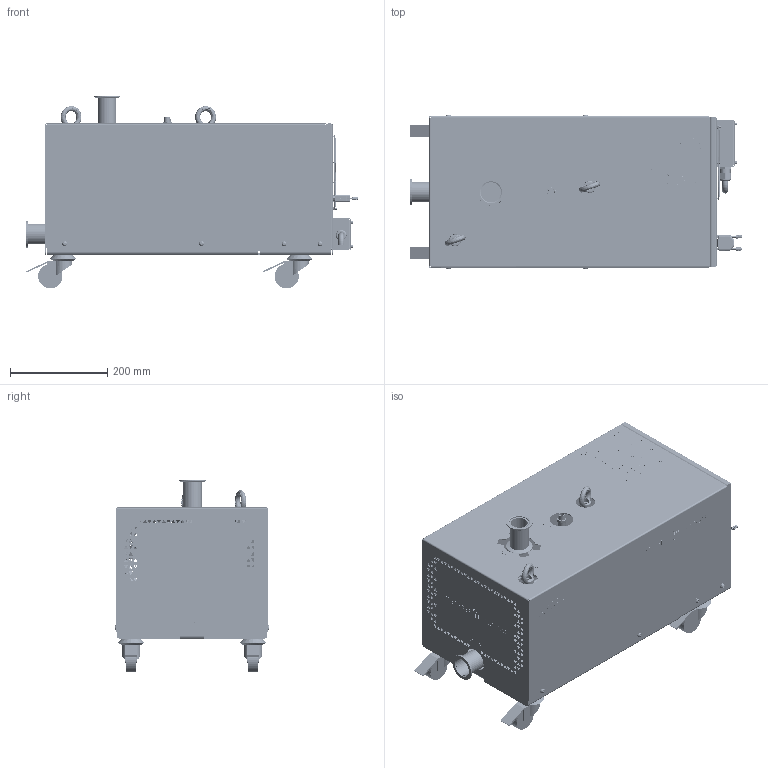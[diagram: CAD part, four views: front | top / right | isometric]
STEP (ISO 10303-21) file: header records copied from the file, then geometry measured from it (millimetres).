
FILE_DESCRIPTION((''),'2;1');
FILE_NAME('CREO10000213206_ASM','2022-10-10T08:11:23',('MSACCHET'),(''),'CREO PARAMETRIC BY PTC INC, 2020281','CREO PARAMETRIC BY PTC INC, 2020281','');
FILE_SCHEMA(('CONFIG_CONTROL_DESIGN'));
Products named in the file (80): FACE-AVANT-COMPLETE-DESIGN-ULY_ASM; ROULETTE-P-FREIN-13327-PAILLET; RONDELLE_M10INOX_NS; CHC-M10X20; ECROU-H-M10; ROUE-ULYSSE-ACCESSOIRE_ASM; EQUIP-ULYSSE-SELECTION-DESIGN_ASM; EMBASE-ULYSSE-DESIGN; RIVKLE-HEX-EP3_M6; GOUJON-SERTI-M4X12; EMBASE-DESIGN-ULYSSE_ASM; ETIQUETTE-TERRE-RONDE-D9; EMBASE-DESIGN-ACP90-LIGHT_ASM; FACE-AVANT-EQUIP-DESIGN-ULYSSE; CREO10000224591; CREO10000243603; CREO10000215028_ASM; COLONNETTE-SERT-BOR-M3X8; GOUJON-SERTI-M4X10; FACE-AVANT-SELECTION-DESIGN_ASM; CREO10000243608; PRESSE-ETOUPE-980-03-LEGRAND; CHC-M3X6INOX; FUJI-FRN0008E2S-7GA; RONDELLE_ONDUFLEX-04INOX; CHC-M4X25INOX; ECROU_TWOLOCK-NOMEL-M4; FUJI_ASM; ENTRETOISE_SD6_4-40_4-40; SAN_ACE_DC_172E51_RL_RU; PINCE-FIXATION-REF-PAPST-LZ210; TFH-ST3_5X22; GRILLE-PAPST-LZ24B; CREO10000225703; ETIQUETTE-CONSTRUCTEUR-CE-ACP; CREO10000208067; CREO10000208091; CREO10000225706; CREO10000226216; CREO10000232705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
Assembly tree (150 placements, depth 6):
  CREO10000213206_ASM
    EQUIP-ULYSSE-SELECTION-DESIGN_ASM
      FACE-AVANT-COMPLETE-DESIGN-ULY_ASM
      ROUE-ULYSSE-ACCESSOIRE_ASM  x4
        ROULETTE-P-FREIN-13327-PAILLET
        RONDELLE_M10INOX_NS
        CHC-M10X20
        ECROU-H-M10
    EQUIP-AMOR-FRN0008E2S_7GA-LIGHT_ASM
      EMBASE-DESIGN-ACP90-LIGHT_ASM
        EMBASE-DESIGN-ULYSSE_ASM
          EMBASE-ULYSSE-DESIGN
          RIVKLE-HEX-EP3_M6  x8
          GOUJON-SERTI-M4X12  x2
        ETIQUETTE-TERRE-RONDE-D9  x2
      FACE-AVANT-FRN0008E2S_7GA-LIGHT_ASM
        FACE-AVANT-SELECTION-DESIGN_ASM
          CREO10000215028_ASM
            FACE-AVANT-EQUIP-DESIGN-ULYSSE
            CREO10000224591
            CREO10000243603
          COLONNETTE-SERT-BOR-M3X8  x17
          GOUJON-SERTI-M4X10  x3
        CREO10000243608
        PRESSE-ETOUPE-980-03-LEGRAND
        CHC-M3X6INOX  x4
        FUJI_ASM
          FUJI-FRN0008E2S-7GA
          RONDELLE_ONDUFLEX-04INOX  x4
          CHC-M4X25INOX  x4
          ECROU_TWOLOCK-NOMEL-M4  x4
        ENTRETOISE_SD6_4-40_4-40  x2
        SAN_ACE_DC_172E51_RL_RU
        PINCE-FIXATION-REF-PAPST-LZ210  x4
        TFH-ST3_5X22  x4
        GRILLE-PAPST-LZ24B
        ETIQUETTE-TERRE-RONDE-D9  x3
        CREO10000225703
        ETIQUETTE-CONSTRUCTEUR-CE-ACP
        CREO10000208067
        CREO10000208091
        ECROU_TWOLOCK-NOMEL-M4  x3
        CREO10000225706
        CREO10000226216
        CREO10000232705
        CREO10000234416_ASM
          CREO10000234413
          CREO10000234415
          CREO10000234417
        ETIQUETTE-CONFORMITE-UL-ACP
      CAPOT-ACP90-SANS-MOUSSES_ASM
        CAPOT-SOLU4-DESIGN
        TRANSFERT_PV_K_180X31  x3
        ETIQUETTE-ACP-ULYSSE  x2
        ETIQ-CAPOT-ULYSSE-EXHAUST
        ETIQ-CAPOT-ULYSSE-INLET
        CREO10000208015
        CREO10000208040
        CREO10000208038
        CREO10000208044
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Bounding box: 683.9 x 319 x 396.71 mm (x, y, z)
Volume: 3197478.4 mm3; surface area: 2461456.2 mm2
Topology: 322 solids, 368 shells, 39720 faces, 108456 edges, 71603 vertices
Faces by surface type: plane 18918, extrusion 16141, cylinder 2477, bspline 1151, cone 614, torus 330, sphere 89
Entity records: 1339992 total; most frequent: CARTESIAN_POINT 482310, ORIENTED_EDGE 198978, DIRECTION 125762, EDGE_CURVE 99489, VECTOR 76086, VERTEX_POINT 66023, LINE 60479, B_SPLINE_CURVE_WITH_KNOTS 49908
